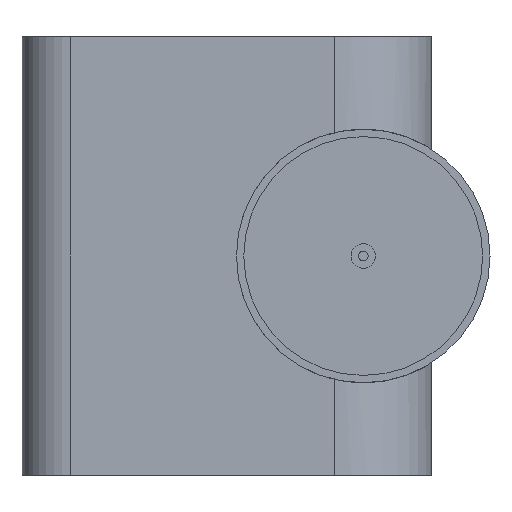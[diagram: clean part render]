
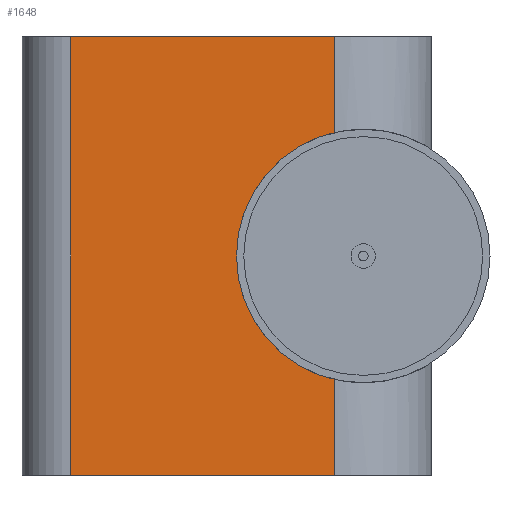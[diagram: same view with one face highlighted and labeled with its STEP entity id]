
A CAD part, front view. The second image highlights one B-rep face of the part: STEP entity #1648.
In plain terms, the highlighted planar face has unit normal (0, -1, 0).
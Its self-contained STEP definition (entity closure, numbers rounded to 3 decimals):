
#27 = ORIENTED_EDGE ( 'NONE', *, *, #661, .T. ) ;
#171 = DIRECTION ( 'NONE',  ( 0., -1., 0. ) ) ;
#204 = EDGE_CURVE ( 'NONE', #1372, #1499, #632, .T. ) ;
#276 = CARTESIAN_POINT ( 'NONE',  ( -160., -50., 225. ) ) ;
#348 = CARTESIAN_POINT ( 'NONE',  ( 110., -50., 126.491 ) ) ;
#500 = DIRECTION ( 'NONE',  ( 0., 0., -1. ) ) ;
#502 = ORIENTED_EDGE ( 'NONE', *, *, #2054, .F. ) ;
#523 = VECTOR ( 'NONE', #2151, 1000. ) ;
#528 = ORIENTED_EDGE ( 'NONE', *, *, #204, .F. ) ;
#532 = CARTESIAN_POINT ( 'NONE',  ( 110., -50., -225. ) ) ;
#538 = EDGE_CURVE ( 'NONE', #1980, #697, #1538, .T. ) ;
#566 = EDGE_LOOP ( 'NONE', ( #502, #965, #2355, #528, #27, #750 ) ) ;
#590 = CIRCLE ( 'NONE', #2219, 130. ) ;
#632 = LINE ( 'NONE', #648, #523 ) ;
#648 = CARTESIAN_POINT ( 'NONE',  ( -160., -50., 225. ) ) ;
#661 = EDGE_CURVE ( 'NONE', #1372, #1980, #1162, .T. ) ;
#667 = DIRECTION ( 'NONE',  ( 0., 0., -1. ) ) ;
#697 = VERTEX_POINT ( 'NONE', #532 ) ;
#750 = ORIENTED_EDGE ( 'NONE', *, *, #538, .T. ) ;
#766 = CARTESIAN_POINT ( 'NONE',  ( -160., -50., 225. ) ) ;
#775 = VERTEX_POINT ( 'NONE', #1673 ) ;
#805 = DIRECTION ( 'NONE',  ( 0., 0., -1. ) ) ;
#815 = VECTOR ( 'NONE', #667, 1000. ) ;
#820 = CARTESIAN_POINT ( 'NONE',  ( -160., -50., -225. ) ) ;
#955 = VECTOR ( 'NONE', #500, 1000. ) ;
#965 = ORIENTED_EDGE ( 'NONE', *, *, #1101, .F. ) ;
#1098 = CARTESIAN_POINT ( 'NONE',  ( -160., -50., -225. ) ) ;
#1101 = EDGE_CURVE ( 'NONE', #2349, #775, #590, .T. ) ;
#1162 = LINE ( 'NONE', #1952, #815 ) ;
#1172 = DIRECTION ( 'NONE',  ( -1., 0., 0. ) ) ;
#1179 = EDGE_CURVE ( 'NONE', #1499, #2349, #1938, .T. ) ;
#1372 = VERTEX_POINT ( 'NONE', #276 ) ;
#1397 = DIRECTION ( 'NONE',  ( 1., 0., 0. ) ) ;
#1418 = VECTOR ( 'NONE', #1397, 1000. ) ;
#1499 = VERTEX_POINT ( 'NONE', #1685 ) ;
#1518 = CARTESIAN_POINT ( 'NONE',  ( 110., -50., 225. ) ) ;
#1538 = LINE ( 'NONE', #820, #1418 ) ;
#1550 = PLANE ( 'NONE',  #2319 ) ;
#1648 = ADVANCED_FACE ( 'NONE', ( #1714 ), #1550, .F. ) ;
#1669 = VECTOR ( 'NONE', #805, 1000. ) ;
#1673 = CARTESIAN_POINT ( 'NONE',  ( 110., -50., -126.491 ) ) ;
#1685 = CARTESIAN_POINT ( 'NONE',  ( 110., -50., 225. ) ) ;
#1714 = FACE_OUTER_BOUND ( 'NONE', #566, .T. ) ;
#1882 = CARTESIAN_POINT ( 'NONE',  ( 140., -50., 0. ) ) ;
#1938 = LINE ( 'NONE', #1518, #1669 ) ;
#1952 = CARTESIAN_POINT ( 'NONE',  ( -160., -50., 225. ) ) ;
#1980 = VERTEX_POINT ( 'NONE', #1098 ) ;
#1989 = CARTESIAN_POINT ( 'NONE',  ( 110., -50., 225. ) ) ;
#2054 = EDGE_CURVE ( 'NONE', #775, #697, #2189, .T. ) ;
#2121 = DIRECTION ( 'NONE',  ( 0., 1., 0. ) ) ;
#2151 = DIRECTION ( 'NONE',  ( 1., 0., 0. ) ) ;
#2189 = LINE ( 'NONE', #1989, #955 ) ;
#2219 = AXIS2_PLACEMENT_3D ( 'NONE', #1882, #171, #2235 ) ;
#2235 = DIRECTION ( 'NONE',  ( 1., 0., 0. ) ) ;
#2319 = AXIS2_PLACEMENT_3D ( 'NONE', #766, #2121, #1172 ) ;
#2349 = VERTEX_POINT ( 'NONE', #348 ) ;
#2355 = ORIENTED_EDGE ( 'NONE', *, *, #1179, .F. ) ;
